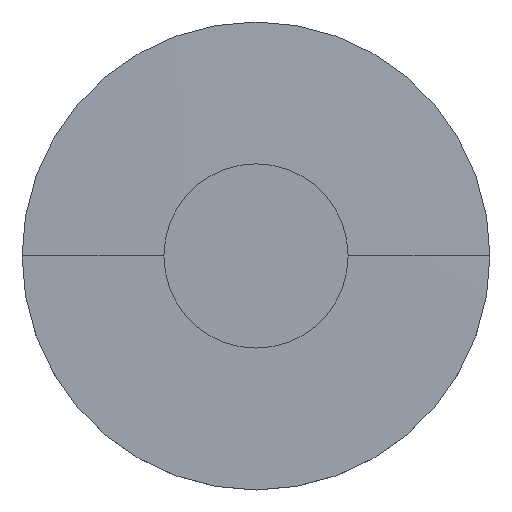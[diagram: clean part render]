
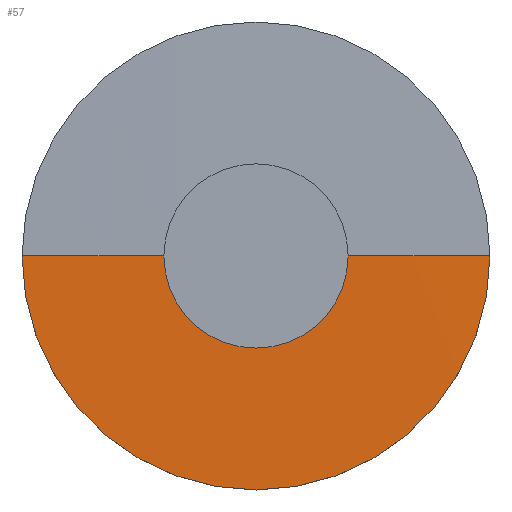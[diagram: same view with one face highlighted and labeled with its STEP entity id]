
A CAD part, top view. The second image highlights one B-rep face of the part: STEP entity #57.
In plain terms, the highlighted spherical face has radius 2118.64 mm.
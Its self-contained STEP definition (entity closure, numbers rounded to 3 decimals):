
#57=ADVANCED_FACE('',(#71),#72,.T.);
#71=FACE_OUTER_BOUND('',#91,.T.);
#72=SPHERICAL_SURFACE('',#92,2118.644);
#91=EDGE_LOOP('',(#124,#125,#126));
#92=AXIS2_PLACEMENT_3D('',#127,#128,#129);
#124=ORIENTED_EDGE('',*,*,#173,.T.);
#125=ORIENTED_EDGE('',*,*,#174,.T.);
#126=ORIENTED_EDGE('',*,*,#175,.T.);
#127=CARTESIAN_POINT('',(0.0,0.0,-2113.644));
#128=DIRECTION('',(0.0,0.0,1.0));
#129=DIRECTION('',(1.0,0.0,0.0));
#173=EDGE_CURVE('',#189,#194,#195,.T.);
#174=EDGE_CURVE('',#194,#191,#196,.T.);
#175=EDGE_CURVE('',#191,#189,#197,.T.);
#189=VERTEX_POINT('',#215);
#191=VERTEX_POINT('',#218);
#194=VERTEX_POINT('',#222);
#195=CIRCLE('',#223,2118.644);
#196=CIRCLE('',#224,2118.644);
#197=CIRCLE('',#225,25.4);
#215=CARTESIAN_POINT('',(25.4,0.,4.848));
#218=CARTESIAN_POINT('',(-25.4,0.,4.848));
#222=CARTESIAN_POINT('',(0.0,0.0,5.0));
#223=AXIS2_PLACEMENT_3D('',#253,#254,#255);
#224=AXIS2_PLACEMENT_3D('',#256,#257,#258);
#225=AXIS2_PLACEMENT_3D('',#259,#260,#261);
#253=CARTESIAN_POINT('',(0.0,0.0,-2113.644));
#254=DIRECTION('',(0.,-1.0,0.0));
#255=DIRECTION('',(0.0,0.0,1.0));
#256=CARTESIAN_POINT('',(0.0,0.0,-2113.644));
#257=DIRECTION('',(0.,-1.0,0.0));
#258=DIRECTION('',(0.0,0.0,1.0));
#259=CARTESIAN_POINT('',(0.0,0.0,4.848));
#260=DIRECTION('',(0.0,0.0,1.0));
#261=DIRECTION('',(1.0,0.0,0.0));
